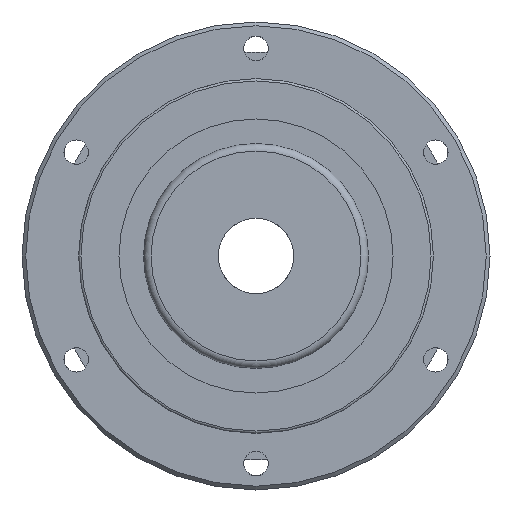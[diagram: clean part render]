
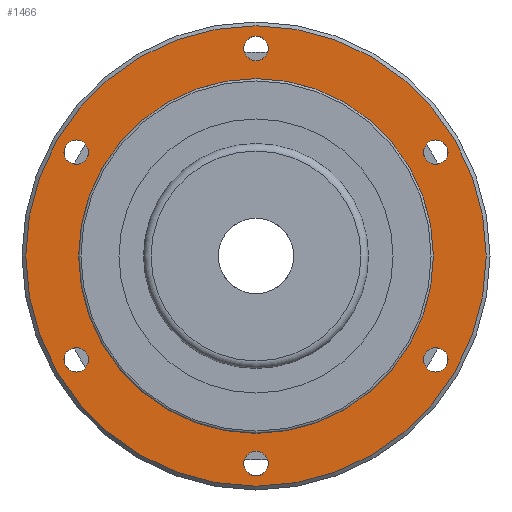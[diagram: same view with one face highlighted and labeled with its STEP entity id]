
A CAD part, left-side view. The second image highlights one B-rep face of the part: STEP entity #1466.
In plain terms, the highlighted planar face has unit normal (-1, 0, 0).
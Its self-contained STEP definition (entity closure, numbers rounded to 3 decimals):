
#41=PLANE('',#1597);
#196=CIRCLE('',#1596,30.5);
#197=CIRCLE('',#1598,1.621);
#198=CIRCLE('',#1599,1.621);
#199=CIRCLE('',#1600,1.621);
#200=CIRCLE('',#1601,1.621);
#201=CIRCLE('',#1602,1.621);
#202=CIRCLE('',#1603,1.621);
#203=CIRCLE('',#1604,23.5);
#343=ORIENTED_EDGE('',*,*,#567,.T.);
#344=ORIENTED_EDGE('',*,*,#568,.T.);
#345=ORIENTED_EDGE('',*,*,#569,.T.);
#346=ORIENTED_EDGE('',*,*,#570,.T.);
#347=ORIENTED_EDGE('',*,*,#571,.T.);
#348=ORIENTED_EDGE('',*,*,#572,.T.);
#349=ORIENTED_EDGE('',*,*,#573,.F.);
#350=ORIENTED_EDGE('',*,*,#566,.T.);
#566=EDGE_CURVE('',#674,#674,#196,.T.);
#567=EDGE_CURVE('',#675,#675,#197,.T.);
#568=EDGE_CURVE('',#676,#676,#198,.T.);
#569=EDGE_CURVE('',#677,#677,#199,.T.);
#570=EDGE_CURVE('',#678,#678,#200,.T.);
#571=EDGE_CURVE('',#679,#679,#201,.T.);
#572=EDGE_CURVE('',#680,#680,#202,.T.);
#573=EDGE_CURVE('',#681,#681,#203,.T.);
#674=VERTEX_POINT('',#2258);
#675=VERTEX_POINT('',#2261);
#676=VERTEX_POINT('',#2263);
#677=VERTEX_POINT('',#2265);
#678=VERTEX_POINT('',#2267);
#679=VERTEX_POINT('',#2269);
#680=VERTEX_POINT('',#2271);
#681=VERTEX_POINT('',#2273);
#772=EDGE_LOOP('',(#343));
#773=EDGE_LOOP('',(#344));
#774=EDGE_LOOP('',(#345));
#775=EDGE_LOOP('',(#346));
#776=EDGE_LOOP('',(#347));
#777=EDGE_LOOP('',(#348));
#778=EDGE_LOOP('',(#349));
#779=EDGE_LOOP('',(#350));
#886=FACE_BOUND('',#772,.T.);
#887=FACE_BOUND('',#773,.T.);
#888=FACE_BOUND('',#774,.T.);
#889=FACE_BOUND('',#775,.T.);
#890=FACE_BOUND('',#776,.T.);
#891=FACE_BOUND('',#777,.T.);
#892=FACE_BOUND('',#778,.T.);
#893=FACE_BOUND('',#779,.T.);
#1466=ADVANCED_FACE('',(#886,#887,#888,#889,#890,#891,#892,#893),#41,.F.);
#1596=AXIS2_PLACEMENT_3D('',#2257,#1845,#1846);
#1597=AXIS2_PLACEMENT_3D('',#2259,#1847,#1848);
#1598=AXIS2_PLACEMENT_3D('',#2260,#1849,#1850);
#1599=AXIS2_PLACEMENT_3D('',#2262,#1851,#1852);
#1600=AXIS2_PLACEMENT_3D('',#2264,#1853,#1854);
#1601=AXIS2_PLACEMENT_3D('',#2266,#1855,#1856);
#1602=AXIS2_PLACEMENT_3D('',#2268,#1857,#1858);
#1603=AXIS2_PLACEMENT_3D('',#2270,#1859,#1860);
#1604=AXIS2_PLACEMENT_3D('',#2272,#1861,#1862);
#1845=DIRECTION('',(-1.,0.,0.));
#1846=DIRECTION('',(0.,0.,1.));
#1847=DIRECTION('',(1.,0.,0.));
#1848=DIRECTION('',(0.,0.,-1.));
#1849=DIRECTION('',(1.,0.,0.));
#1850=DIRECTION('',(0.,0.,1.));
#1851=DIRECTION('',(1.,0.,0.));
#1852=DIRECTION('',(0.,0.,1.));
#1853=DIRECTION('',(1.,0.,0.));
#1854=DIRECTION('',(0.,0.,1.));
#1855=DIRECTION('',(1.,0.,0.));
#1856=DIRECTION('',(0.,0.,1.));
#1857=DIRECTION('',(1.,0.,0.));
#1858=DIRECTION('',(0.,0.,1.));
#1859=DIRECTION('',(1.,0.,0.));
#1860=DIRECTION('',(0.,0.,1.));
#1861=DIRECTION('',(-1.,0.,0.));
#1862=DIRECTION('',(0.,0.,1.));
#2257=CARTESIAN_POINT('',(7.8,0.,0.));
#2258=CARTESIAN_POINT('',(7.8,0.,30.5));
#2259=CARTESIAN_POINT('',(7.8,0.,23.5));
#2260=CARTESIAN_POINT('',(7.8,23.816,13.75));
#2261=CARTESIAN_POINT('',(7.8,23.816,15.371));
#2262=CARTESIAN_POINT('',(7.8,23.816,-13.75));
#2263=CARTESIAN_POINT('',(7.8,23.816,-12.129));
#2264=CARTESIAN_POINT('',(7.8,0.,-27.5));
#2265=CARTESIAN_POINT('',(7.8,0.,-25.879));
#2266=CARTESIAN_POINT('',(7.8,-23.816,-13.75));
#2267=CARTESIAN_POINT('',(7.8,-23.816,-12.129));
#2268=CARTESIAN_POINT('',(7.8,-23.816,13.75));
#2269=CARTESIAN_POINT('',(7.8,-23.816,15.371));
#2270=CARTESIAN_POINT('',(7.8,0.,27.5));
#2271=CARTESIAN_POINT('',(7.8,0.,29.121));
#2272=CARTESIAN_POINT('',(7.8,0.,0.));
#2273=CARTESIAN_POINT('',(7.8,0.,23.5));
